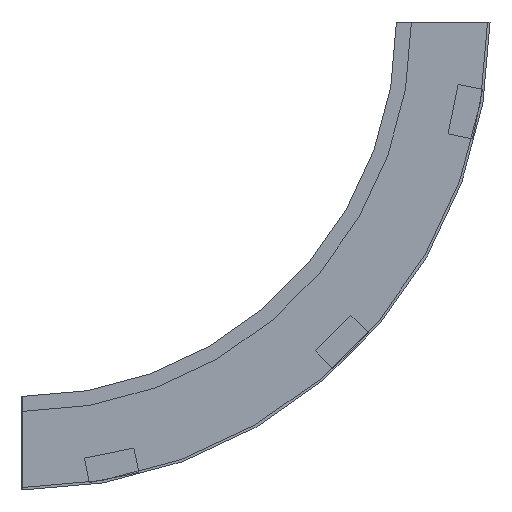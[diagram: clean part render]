
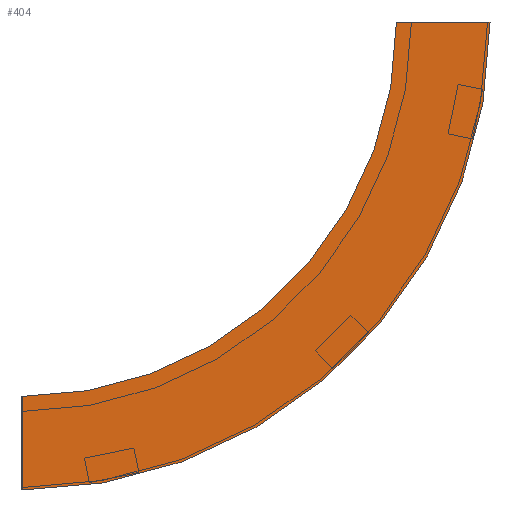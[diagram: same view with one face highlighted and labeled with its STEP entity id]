
A CAD part, left-side view. The second image highlights one B-rep face of the part: STEP entity #404.
In plain terms, the highlighted planar face has unit normal (-1, 0, 0) as drawn and (1, 0, 0) by its records, which use the part's own axes.
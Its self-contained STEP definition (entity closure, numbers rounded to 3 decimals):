
#5 = LINE ( 'NONE', #409, #296 ) ;
#9 = CARTESIAN_POINT ( 'NONE',  ( 0., -75., 0. ) ) ;
#33 = DIRECTION ( 'NONE',  ( 0., -1., 0. ) ) ;
#35 = ORIENTED_EDGE ( 'NONE', *, *, #232, .T. ) ;
#46 = EDGE_CURVE ( 'NONE', #523, #574, #5, .T. ) ;
#51 = FACE_OUTER_BOUND ( 'NONE', #539, .T. ) ;
#87 = DIRECTION ( 'NONE',  ( 1., 0., 0. ) ) ;
#90 = CARTESIAN_POINT ( 'NONE',  ( 0., -75., 0. ) ) ;
#102 = EDGE_CURVE ( 'NONE', #372, #574, #284, .T. ) ;
#121 = ORIENTED_EDGE ( 'NONE', *, *, #102, .F. ) ;
#165 = CARTESIAN_POINT ( 'NONE',  ( 0., 300., -300. ) ) ;
#174 = CARTESIAN_POINT ( 'NONE',  ( 0., 300., -375. ) ) ;
#219 = ORIENTED_EDGE ( 'NONE', *, *, #46, .T. ) ;
#220 = CARTESIAN_POINT ( 'NONE',  ( 0., -75., 0. ) ) ;
#232 = EDGE_CURVE ( 'NONE', #332, #523, #245, .T. ) ;
#236 = LINE ( 'NONE', #9, #383 ) ;
#245 = CIRCLE ( 'NONE', #254, 375. ) ;
#254 = AXIS2_PLACEMENT_3D ( 'NONE', #468, #532, #33 ) ;
#273 = DIRECTION ( 'NONE',  ( 0., 0., 1. ) ) ;
#284 = CIRCLE ( 'NONE', #570, 300. ) ;
#296 = VECTOR ( 'NONE', #411, 1000. ) ;
#304 = CARTESIAN_POINT ( 'NONE',  ( 0., 0., 0. ) ) ;
#323 = ORIENTED_EDGE ( 'NONE', *, *, #481, .F. ) ;
#326 = CARTESIAN_POINT ( 'NONE',  ( 0., 300., 0. ) ) ;
#332 = VERTEX_POINT ( 'NONE', #220 ) ;
#366 = DIRECTION ( 'NONE',  ( 0., -1., 0. ) ) ;
#372 = VERTEX_POINT ( 'NONE', #304 ) ;
#383 = VECTOR ( 'NONE', #580, 1000. ) ;
#404 = ADVANCED_FACE ( 'NONE', ( #51 ), #496, .F. ) ;
#409 = CARTESIAN_POINT ( 'NONE',  ( 0., 300., -375. ) ) ;
#411 = DIRECTION ( 'NONE',  ( 0., 0., 1. ) ) ;
#454 = DIRECTION ( 'NONE',  ( -1., 0., 0. ) ) ;
#468 = CARTESIAN_POINT ( 'NONE',  ( 0., 300., 0. ) ) ;
#481 = EDGE_CURVE ( 'NONE', #332, #372, #236, .T. ) ;
#496 = PLANE ( 'NONE',  #564 ) ;
#523 = VERTEX_POINT ( 'NONE', #174 ) ;
#532 = DIRECTION ( 'NONE',  ( 1., 0., 0. ) ) ;
#539 = EDGE_LOOP ( 'NONE', ( #121, #323, #35, #219 ) ) ;
#564 = AXIS2_PLACEMENT_3D ( 'NONE', #90, #454, #273 ) ;
#570 = AXIS2_PLACEMENT_3D ( 'NONE', #326, #87, #366 ) ;
#574 = VERTEX_POINT ( 'NONE', #165 ) ;
#580 = DIRECTION ( 'NONE',  ( 0., 1., 0. ) ) ;
